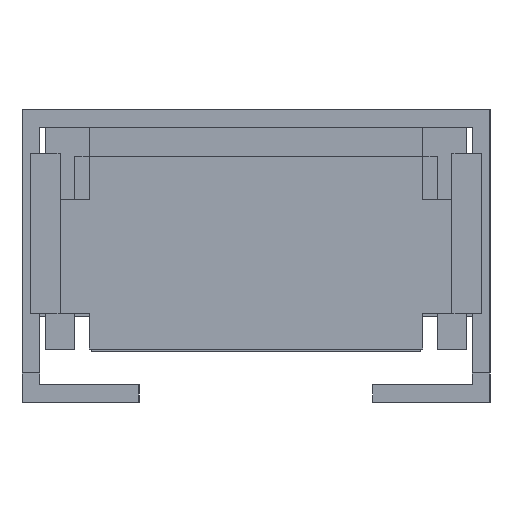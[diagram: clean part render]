
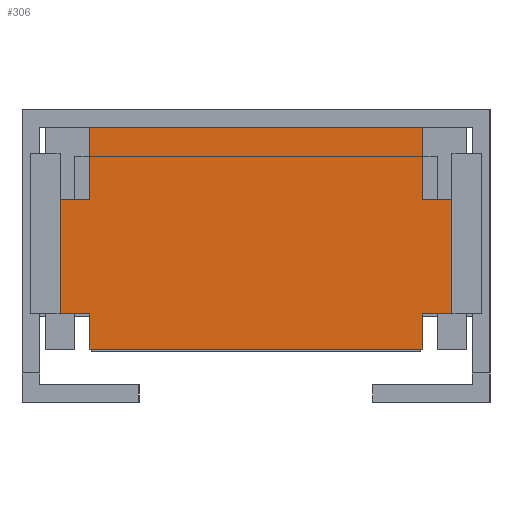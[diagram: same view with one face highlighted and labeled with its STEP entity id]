
A CAD part, left-side view. The second image highlights one B-rep face of the part: STEP entity #306.
In plain terms, the highlighted planar face has unit normal (-1, 0, 0).
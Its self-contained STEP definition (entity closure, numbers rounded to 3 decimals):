
#306 = ADVANCED_FACE( '', ( #603 ), #604, .F. );
#603 = FACE_OUTER_BOUND( '', #899, .T. );
#604 = PLANE( '', #900 );
#899 = EDGE_LOOP( '', ( #1697, #1698, #1699, #1700, #1701, #1702, #1703, #1704, #1705, #1706, #1707, #1708 ) );
#900 = AXIS2_PLACEMENT_3D( '', #1709, #1710, #1711 );
#1697 = ORIENTED_EDGE( '', *, *, #1973, .F. );
#1698 = ORIENTED_EDGE( '', *, *, #2135, .F. );
#1699 = ORIENTED_EDGE( '', *, *, #2124, .F. );
#1700 = ORIENTED_EDGE( '', *, *, #2127, .T. );
#1701 = ORIENTED_EDGE( '', *, *, #2242, .F. );
#1702 = ORIENTED_EDGE( '', *, *, #2248, .T. );
#1703 = ORIENTED_EDGE( '', *, *, #1984, .T. );
#1704 = ORIENTED_EDGE( '', *, *, #2213, .T. );
#1705 = ORIENTED_EDGE( '', *, *, #1956, .T. );
#1706 = ORIENTED_EDGE( '', *, *, #2198, .F. );
#1707 = ORIENTED_EDGE( '', *, *, #2218, .T. );
#1708 = ORIENTED_EDGE( '', *, *, #2034, .F. );
#1709 = CARTESIAN_POINT( '', ( -6., 14.25, -18.95 ) );
#1710 = DIRECTION( '', ( 1., 0., 0. ) );
#1711 = DIRECTION( '', ( 0., 0., -1. ) );
#1956 = EDGE_CURVE( '', #2376, #2373, #2377, .T. );
#1973 = EDGE_CURVE( '', #2404, #2407, #2408, .T. );
#1984 = EDGE_CURVE( '', #2426, #2423, #2427, .T. );
#2034 = EDGE_CURVE( '', #2407, #2513, #2514, .T. );
#2124 = EDGE_CURVE( '', #2656, #2651, #2658, .T. );
#2127 = EDGE_CURVE( '', #2656, #2660, #2662, .T. );
#2135 = EDGE_CURVE( '', #2651, #2404, #2672, .T. );
#2198 = EDGE_CURVE( '', #2753, #2373, #2755, .T. );
#2213 = EDGE_CURVE( '', #2423, #2376, #2772, .T. );
#2218 = EDGE_CURVE( '', #2753, #2513, #2777, .T. );
#2242 = EDGE_CURVE( '', #2803, #2660, #2804, .T. );
#2248 = EDGE_CURVE( '', #2803, #2426, #2811, .T. );
#2373 = VERTEX_POINT( '', #2977 );
#2376 = VERTEX_POINT( '', #2981 );
#2377 = LINE( '', #2982, #2983 );
#2404 = VERTEX_POINT( '', #3022 );
#2407 = VERTEX_POINT( '', #3026 );
#2408 = LINE( '', #3027, #3028 );
#2423 = VERTEX_POINT( '', #3050 );
#2426 = VERTEX_POINT( '', #3054 );
#2427 = LINE( '', #3055, #3056 );
#2513 = VERTEX_POINT( '', #3181 );
#2514 = LINE( '', #3182, #3183 );
#2651 = VERTEX_POINT( '', #3391 );
#2656 = VERTEX_POINT( '', #3399 );
#2658 = LINE( '', #3402, #3403 );
#2660 = VERTEX_POINT( '', #3405 );
#2662 = LINE( '', #3408, #3409 );
#2672 = LINE( '', #3424, #3425 );
#2753 = VERTEX_POINT( '', #3547 );
#2755 = LINE( '', #3550, #3551 );
#2772 = LINE( '', #3577, #3578 );
#2777 = LINE( '', #3584, #3585 );
#2803 = VERTEX_POINT( '', #3625 );
#2804 = LINE( '', #3626, #3627 );
#2811 = LINE( '', #3637, #3638 );
#2977 = CARTESIAN_POINT( '', ( -6., -16.75, -6.2 ) );
#2981 = CARTESIAN_POINT( '', ( -6., -16.75, -15.9 ) );
#2982 = CARTESIAN_POINT( '', ( -6., -16.75, -15.9 ) );
#2983 = VECTOR( '', #3735, 1000. );
#3022 = CARTESIAN_POINT( '', ( -6., 14.25, -6.2 ) );
#3026 = CARTESIAN_POINT( '', ( -6., 14.25, 0. ) );
#3027 = CARTESIAN_POINT( '', ( -6., 14.25, -18.95 ) );
#3028 = VECTOR( '', #3749, 1000. );
#3050 = CARTESIAN_POINT( '', ( -6., -14.25, -15.9 ) );
#3054 = CARTESIAN_POINT( '', ( -6., -14.25, -18.95 ) );
#3055 = CARTESIAN_POINT( '', ( -6., -14.25, -18.95 ) );
#3056 = VECTOR( '', #3758, 1000. );
#3181 = CARTESIAN_POINT( '', ( -6., -14.25, 0. ) );
#3182 = CARTESIAN_POINT( '', ( -6., 14.25, 0. ) );
#3183 = VECTOR( '', #3804, 1000. );
#3391 = CARTESIAN_POINT( '', ( -6., 16.75, -6.2 ) );
#3399 = CARTESIAN_POINT( '', ( -6., 16.75, -15.9 ) );
#3402 = CARTESIAN_POINT( '', ( -6., 16.75, -15.9 ) );
#3403 = VECTOR( '', #3880, 1000. );
#3405 = CARTESIAN_POINT( '', ( -6., 14.25, -15.9 ) );
#3408 = CARTESIAN_POINT( '', ( -6., 16.75, -15.9 ) );
#3409 = VECTOR( '', #3882, 1000. );
#3424 = CARTESIAN_POINT( '', ( -6., 16.75, -6.2 ) );
#3425 = VECTOR( '', #3888, 1000. );
#3547 = CARTESIAN_POINT( '', ( -6., -14.25, -6.2 ) );
#3550 = CARTESIAN_POINT( '', ( -6., 16.75, -6.2 ) );
#3551 = VECTOR( '', #3937, 1000. );
#3577 = CARTESIAN_POINT( '', ( -6., 16.75, -15.9 ) );
#3578 = VECTOR( '', #3947, 1000. );
#3584 = CARTESIAN_POINT( '', ( -6., -14.25, -18.95 ) );
#3585 = VECTOR( '', #3949, 1000. );
#3625 = CARTESIAN_POINT( '', ( -6., 14.25, -18.95 ) );
#3626 = CARTESIAN_POINT( '', ( -6., 14.25, -18.95 ) );
#3627 = VECTOR( '', #3964, 1000. );
#3637 = CARTESIAN_POINT( '', ( -6., 14.25, -18.95 ) );
#3638 = VECTOR( '', #3968, 1000. );
#3735 = DIRECTION( '', ( 0., 0., 1. ) );
#3749 = DIRECTION( '', ( 0., 0., 1. ) );
#3758 = DIRECTION( '', ( 0., 0., 1. ) );
#3804 = DIRECTION( '', ( 0., -1., 0. ) );
#3880 = DIRECTION( '', ( 0., 0., 1. ) );
#3882 = DIRECTION( '', ( 0., -1., 0. ) );
#3888 = DIRECTION( '', ( 0., -1., 0. ) );
#3937 = DIRECTION( '', ( 0., -1., 0. ) );
#3947 = DIRECTION( '', ( 0., -1., 0. ) );
#3949 = DIRECTION( '', ( 0., 0., 1. ) );
#3964 = DIRECTION( '', ( 0., 0., 1. ) );
#3968 = DIRECTION( '', ( 0., -1., 0. ) );
